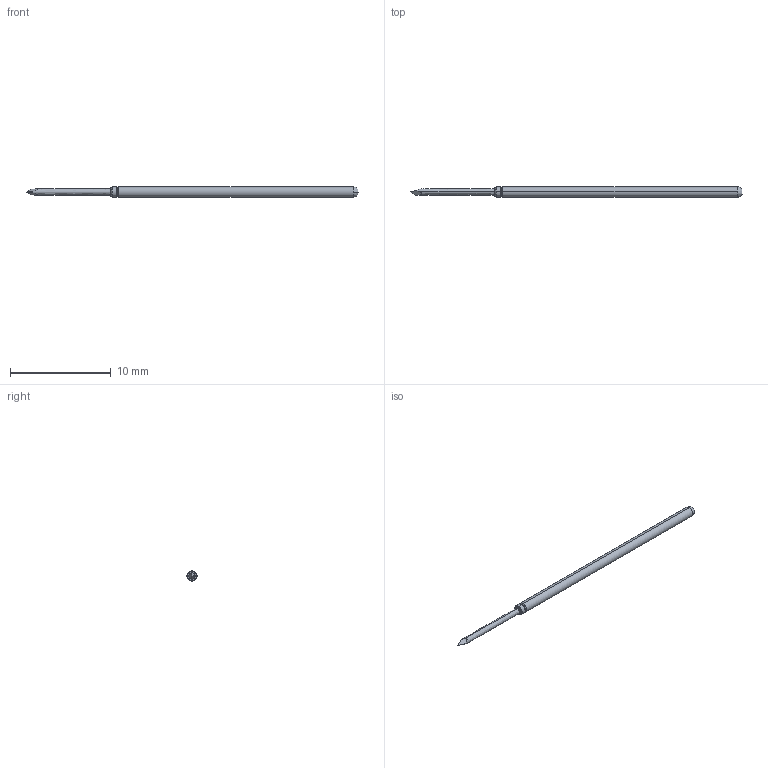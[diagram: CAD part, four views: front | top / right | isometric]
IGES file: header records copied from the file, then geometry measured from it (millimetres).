
Start section: SolidWorks IGES file using analytic representation for surfaces
Global section: file name: Z:\probe solid model mockups\Solidworks models\Parts\LFRE-1T24.IGS; native system: SolidWorks 2016; preprocessor: SolidWorks 2016; author: mlee; date: 180927.163927; units: inch
Bounding box: 33.02 x 1.02 x 1.02 mm (x, y, z)
Surface area: 94.6 mm2 (no closed solid volume)
Topology: 0 solids, 0 shells, 21 faces, 158 edges, 158 vertices
Faces by surface type: revolution 12, bspline 9
